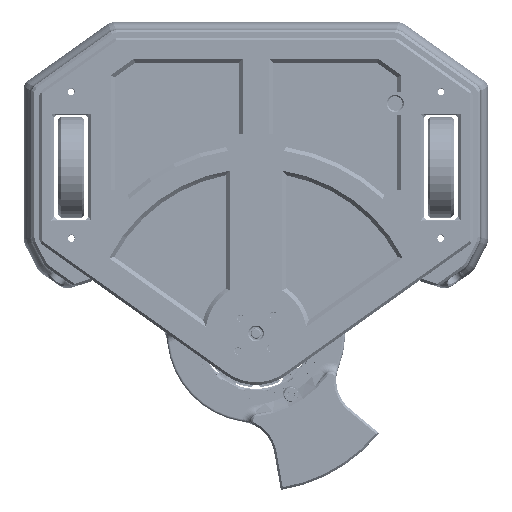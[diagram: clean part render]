
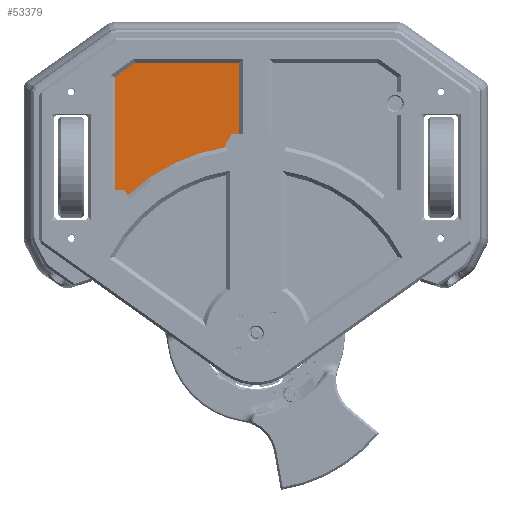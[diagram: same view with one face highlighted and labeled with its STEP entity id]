
A CAD part, top view. The second image highlights one B-rep face of the part: STEP entity #53379.
In plain terms, the highlighted planar face has unit normal (0, 0, 1).
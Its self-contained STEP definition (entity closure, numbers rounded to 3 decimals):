
#5577=FACE_OUTER_BOUND('',#8907,.T.);
#8907=EDGE_LOOP('',(#43165,#43166,#43167,#43168,#43169,#43170,#43171,#43172,
#43173,#43174));
#11027=CIRCLE('',#57266,71.5);
#14278=LINE('',#94563,#19066);
#14317=LINE('',#94642,#19105);
#14319=LINE('',#94649,#19107);
#14322=LINE('',#94662,#19110);
#14323=LINE('',#94664,#19111);
#14325=LINE('',#94668,#19113);
#14356=LINE('',#94751,#19144);
#14358=LINE('',#94754,#19146);
#14359=LINE('',#94756,#19147);
#19066=VECTOR('',#66829,10.);
#19105=VECTOR('',#66932,10.);
#19107=VECTOR('',#66936,10.);
#19110=VECTOR('',#66949,10.);
#19111=VECTOR('',#66952,10.);
#19113=VECTOR('',#66956,10.);
#19144=VECTOR('',#67075,10.);
#19146=VECTOR('',#67079,10.);
#19147=VECTOR('',#67082,10.);
#23903=VERTEX_POINT('',#94560);
#23904=VERTEX_POINT('',#94562);
#23905=VERTEX_POINT('',#94639);
#23906=VERTEX_POINT('',#94641);
#23907=VERTEX_POINT('',#94645);
#23908=VERTEX_POINT('',#94651);
#23909=VERTEX_POINT('',#94660);
#23910=VERTEX_POINT('',#94666);
#23917=VERTEX_POINT('',#94748);
#23918=VERTEX_POINT('',#94750);
#30565=EDGE_CURVE('',#23904,#23903,#14278,.T.);
#30606=EDGE_CURVE('',#23906,#23905,#14317,.T.);
#30609=EDGE_CURVE('',#23905,#23907,#14319,.T.);
#30611=EDGE_CURVE('',#23908,#23907,#11027,.T.);
#30614=EDGE_CURVE('',#23908,#23909,#14322,.T.);
#30615=EDGE_CURVE('',#23909,#23904,#14323,.T.);
#30617=EDGE_CURVE('',#23910,#23903,#14325,.T.);
#30654=EDGE_CURVE('',#23917,#23918,#14356,.T.);
#30656=EDGE_CURVE('',#23906,#23917,#14358,.T.);
#30657=EDGE_CURVE('',#23918,#23910,#14359,.T.);
#43165=ORIENTED_EDGE('',*,*,#30609,.T.);
#43166=ORIENTED_EDGE('',*,*,#30611,.F.);
#43167=ORIENTED_EDGE('',*,*,#30614,.T.);
#43168=ORIENTED_EDGE('',*,*,#30615,.T.);
#43169=ORIENTED_EDGE('',*,*,#30565,.T.);
#43170=ORIENTED_EDGE('',*,*,#30617,.F.);
#43171=ORIENTED_EDGE('',*,*,#30657,.F.);
#43172=ORIENTED_EDGE('',*,*,#30654,.F.);
#43173=ORIENTED_EDGE('',*,*,#30656,.F.);
#43174=ORIENTED_EDGE('',*,*,#30606,.T.);
#51089=PLANE('',#57318);
#53379=ADVANCED_FACE('',(#5577),#51089,.T.);
#57266=AXIS2_PLACEMENT_3D('',#94655,#66939,#66940);
#57318=AXIS2_PLACEMENT_3D('',#94757,#67083,#67084);
#66829=DIRECTION('',(1.,0.,0.));
#66932=DIRECTION('',(1.,0.,0.));
#66936=DIRECTION('',(0.5,-0.866,0.));
#66939=DIRECTION('center_axis',(0.,0.,1.));
#66940=DIRECTION('ref_axis',(-0.071,0.997,0.));
#66949=DIRECTION('',(-0.5,0.866,0.));
#66952=DIRECTION('',(0.5,0.866,0.));
#66956=DIRECTION('',(0.,-1.,0.));
#67075=DIRECTION('',(0.815,0.58,0.));
#67079=DIRECTION('',(0.,1.,0.));
#67082=DIRECTION('',(1.,0.,0.));
#67083=DIRECTION('center_axis',(0.,0.,1.));
#67084=DIRECTION('ref_axis',(-1.,0.,0.));
#94560=CARTESIAN_POINT('',(-6.5,10.704,28.5));
#94562=CARTESIAN_POINT('',(-9.098,10.704,28.5));
#94563=CARTESIAN_POINT('',(-19.549,10.704,28.5));
#94639=CARTESIAN_POINT('',(-49.902,-10.5,28.5));
#94641=CARTESIAN_POINT('',(-53.5,-10.5,28.5));
#94642=CARTESIAN_POINT('',(-42.549,-10.5,28.5));
#94645=CARTESIAN_POINT('',(-48.675,-12.626,28.5));
#94649=CARTESIAN_POINT('',(-52.015,-6.84,28.5));
#94651=CARTESIAN_POINT('',(-11.344,5.594,28.5));
#94655=CARTESIAN_POINT('Origin',(0.,-65.,28.5));
#94660=CARTESIAN_POINT('',(-11.696,6.204,28.5));
#94662=CARTESIAN_POINT('',(-13.669,9.622,28.5));
#94664=CARTESIAN_POINT('',(-13.,3.946,28.5));
#94666=CARTESIAN_POINT('',(-6.5,37.5,28.5));
#94668=CARTESIAN_POINT('',(-6.5,24.875,28.5));
#94748=CARTESIAN_POINT('',(-53.5,32.023,28.5));
#94750=CARTESIAN_POINT('',(-45.802,37.5,28.5));
#94751=CARTESIAN_POINT('',(-51.039,33.775,28.5));
#94754=CARTESIAN_POINT('',(-53.5,-2.125,28.5));
#94756=CARTESIAN_POINT('',(-38.141,37.5,28.5));
#94757=CARTESIAN_POINT('Origin',(-30.,10.75,28.5));
